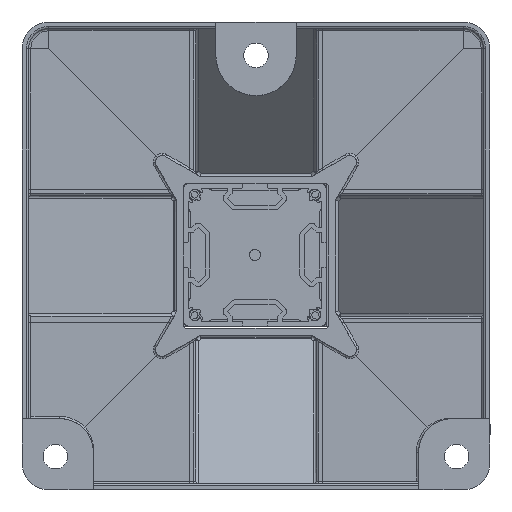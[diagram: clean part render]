
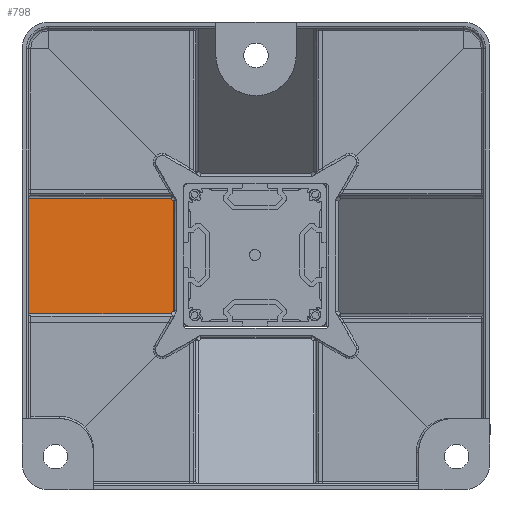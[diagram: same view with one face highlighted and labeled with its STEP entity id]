
A CAD part, front view. The second image highlights one B-rep face of the part: STEP entity #798.
In plain terms, the highlighted planar face has unit normal (0.697, -0.718, 0).
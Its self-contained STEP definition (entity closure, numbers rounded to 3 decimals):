
#798 = ADVANCED_FACE ( 'NONE', ( #9465 ), #10539, .T. ) ;
#1367 = EDGE_LOOP ( 'NONE', ( #1651, #1652, #1653, #1654, #1655, #1656 ) ) ;
#1651 = ORIENTED_EDGE ( 'NONE', *, *, #9347, .T. ) ;
#1652 = ORIENTED_EDGE ( 'NONE', *, *, #9076, .T. ) ;
#1653 = ORIENTED_EDGE ( 'NONE', *, *, #9077, .T. ) ;
#1654 = ORIENTED_EDGE ( 'NONE', *, *, #9078, .T. ) ;
#1655 = ORIENTED_EDGE ( 'NONE', *, *, #9079, .T. ) ;
#1656 = ORIENTED_EDGE ( 'NONE', *, *, #9080, .T. ) ;
#8503 = VERTEX_POINT ( 'NONE', #22653 ) ;
#8506 = VERTEX_POINT ( 'NONE', #22656 ) ;
#8659 = VERTEX_POINT ( 'NONE', #22809 ) ;
#8681 = VERTEX_POINT ( 'NONE', #22831 ) ;
#8682 = VERTEX_POINT ( 'NONE', #22832 ) ;
#8683 = VERTEX_POINT ( 'NONE', #22833 ) ;
#9076 = EDGE_CURVE ( 'NONE', #8506, #8659, #23366, .T. ) ;
#9077 = EDGE_CURVE ( 'NONE', #8659, #8681, #23348, .T. ) ;
#9078 = EDGE_CURVE ( 'NONE', #8681, #8682, #23368, .T. ) ;
#9079 = EDGE_CURVE ( 'NONE', #8682, #8683, #23370, .T. ) ;
#9080 = EDGE_CURVE ( 'NONE', #8683, #8503, #23372, .T. ) ;
#9347 = EDGE_CURVE ( 'NONE', #8503, #8506, #23756, .T. ) ;
#9392 = AXIS2_PLACEMENT_3D ( 'NONE', #10540, #10545, #10546 ) ;
#9465 = FACE_OUTER_BOUND ( 'NONE', #1367, .T. ) ;
#10539 = PLANE ( 'NONE',  #9392 ) ;
#10540 = CARTESIAN_POINT ( 'NONE',  ( -34.911, 63.847, 30. ) ) ;
#10545 = DIRECTION ( 'NONE',  ( 0.696, -0.718, 0. ) ) ;
#10546 = DIRECTION ( 'NONE',  ( 0.718, 0.696, 0. ) ) ;
#17396 = CARTESIAN_POINT ( 'NONE',  ( -102., -1.269, 30. ) ) ;
#17397 = DIRECTION ( 'NONE',  ( 0., 0., -1. ) ) ;
#22653 = CARTESIAN_POINT ( 'NONE',  ( -102., -1.269, 26. ) ) ;
#22656 = CARTESIAN_POINT ( 'NONE',  ( -102., -1.269, -26. ) ) ;
#22809 = CARTESIAN_POINT ( 'NONE',  ( -38.009, 60.84, -26. ) ) ;
#22831 = CARTESIAN_POINT ( 'NONE',  ( -37.196, 61.629, -24.611 ) ) ;
#22832 = CARTESIAN_POINT ( 'NONE',  ( -37.196, 61.629, 24.611 ) ) ;
#22833 = CARTESIAN_POINT ( 'NONE',  ( -38.009, 60.84, 26. ) ) ;
#23348 = LINE ( 'NONE', #24089, #23369 ) ;
#23366 = LINE ( 'NONE', #24092, #23367 ) ;
#23367 = VECTOR ( 'NONE', #24094, 1000. ) ;
#23368 = LINE ( 'NONE', #24096, #23371 ) ;
#23369 = VECTOR ( 'NONE', #24095, 1000. ) ;
#23370 = LINE ( 'NONE', #24098, #23373 ) ;
#23371 = VECTOR ( 'NONE', #24097, 1000. ) ;
#23372 = LINE ( 'NONE', #24100, #23375 ) ;
#23373 = VECTOR ( 'NONE', #24099, 1000. ) ;
#23375 = VECTOR ( 'NONE', #24101, 1000. ) ;
#23756 = LINE ( 'NONE', #17396, #23759 ) ;
#23759 = VECTOR ( 'NONE', #17397, 1000. ) ;
#24089 = CARTESIAN_POINT ( 'NONE',  ( -36.614, 62.194, -23.616 ) ) ;
#24092 = CARTESIAN_POINT ( 'NONE',  ( -36.739, 62.072, -26. ) ) ;
#24094 = DIRECTION ( 'NONE',  ( 0.718, 0.696, 0. ) ) ;
#24095 = DIRECTION ( 'NONE',  ( 0.454, 0.44, 0.775 ) ) ;
#24096 = CARTESIAN_POINT ( 'NONE',  ( -37.196, 61.629, 24.882 ) ) ;
#24097 = DIRECTION ( 'NONE',  ( 0., 0., 1. ) ) ;
#24098 = CARTESIAN_POINT ( 'NONE',  ( -37.853, 60.991, 25.734 ) ) ;
#24099 = DIRECTION ( 'NONE',  ( -0.454, -0.44, 0.775 ) ) ;
#24100 = CARTESIAN_POINT ( 'NONE',  ( -34.911, 63.847, 26. ) ) ;
#24101 = DIRECTION ( 'NONE',  ( -0.718, -0.696, 0. ) ) ;
